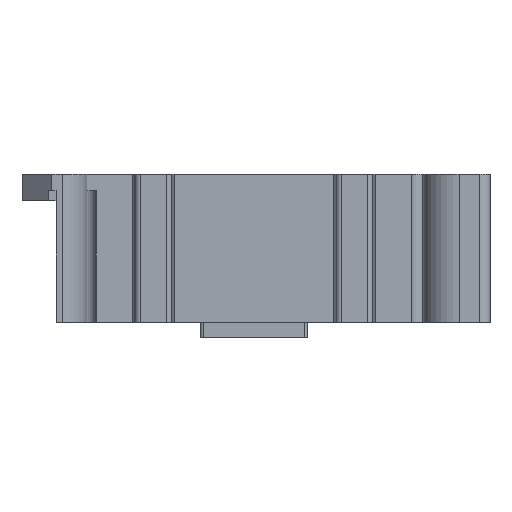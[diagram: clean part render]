
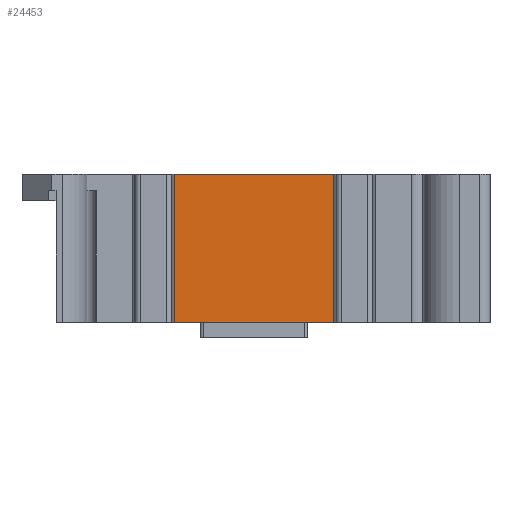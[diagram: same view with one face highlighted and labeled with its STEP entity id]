
A CAD part, front view. The second image highlights one B-rep face of the part: STEP entity #24453.
In plain terms, the highlighted planar face has unit normal (0, -1, 0).
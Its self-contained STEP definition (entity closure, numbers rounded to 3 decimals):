
#4305=FACE_OUTER_BOUND('',#5697,.T.);
#5697=EDGE_LOOP('',(#22680,#22681,#22682,#22683));
#5778=LINE('',#27951,#7535);
#7397=LINE('',#43287,#9154);
#7457=LINE('',#43479,#9214);
#7458=LINE('',#43481,#9215);
#7535=VECTOR('',#25111,10.);
#9154=VECTOR('',#27510,10.);
#9214=VECTOR('',#27732,10.);
#9215=VECTOR('',#27735,10.);
#9297=VERTEX_POINT('',#27948);
#9298=VERTEX_POINT('',#27950);
#11656=VERTEX_POINT('',#43284);
#11657=VERTEX_POINT('',#43286);
#11776=EDGE_CURVE('',#9297,#9298,#5778,.T.);
#15304=EDGE_CURVE('',#11657,#11656,#7397,.T.);
#15389=EDGE_CURVE('',#11656,#9298,#7457,.T.);
#15390=EDGE_CURVE('',#11657,#9297,#7458,.T.);
#22680=ORIENTED_EDGE('',*,*,#15304,.T.);
#22681=ORIENTED_EDGE('',*,*,#15389,.T.);
#22682=ORIENTED_EDGE('',*,*,#11776,.F.);
#22683=ORIENTED_EDGE('',*,*,#15390,.F.);
#23148=PLANE('',#24979);
#24453=ADVANCED_FACE('',(#4305),#23148,.T.);
#24979=AXIS2_PLACEMENT_3D('',#43480,#27733,#27734);
#25111=DIRECTION('',(-1.,0.,0.));
#27510=DIRECTION('',(-1.,0.,0.));
#27732=DIRECTION('',(0.,0.,-1.));
#27733=DIRECTION('center_axis',(0.,-1.,0.));
#27734=DIRECTION('ref_axis',(-1.,0.,0.));
#27735=DIRECTION('',(0.,0.,-1.));
#27948=CARTESIAN_POINT('',(7.75,3.395,-14.4));
#27950=CARTESIAN_POINT('',(-7.75,3.395,-14.4));
#27951=CARTESIAN_POINT('',(7.75,3.395,-14.4));
#43284=CARTESIAN_POINT('',(-7.75,3.395,0.));
#43286=CARTESIAN_POINT('',(7.75,3.395,0.));
#43287=CARTESIAN_POINT('',(7.75,3.395,0.));
#43479=CARTESIAN_POINT('',(-7.75,3.395,0.));
#43480=CARTESIAN_POINT('Origin',(7.75,3.395,0.));
#43481=CARTESIAN_POINT('',(7.75,3.395,0.));
